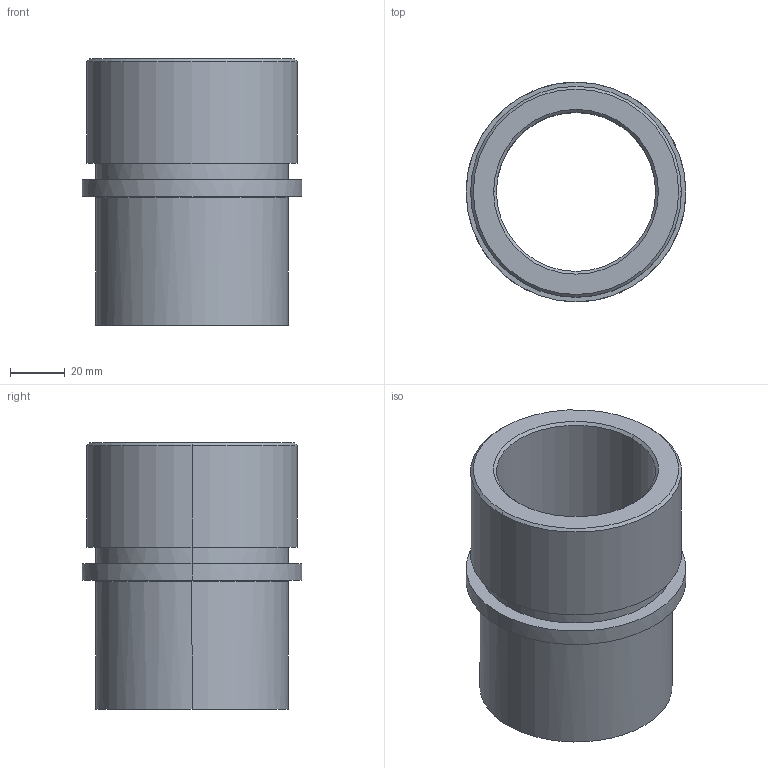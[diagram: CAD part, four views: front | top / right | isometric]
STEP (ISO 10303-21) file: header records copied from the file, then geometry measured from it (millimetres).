
FILE_DESCRIPTION(('CATIA V5 STEP Exchange'),'2;1');
FILE_NAME('C:\Users\Utente\Desktop\IO LAVORO\3D X SITO CF\X SITO\735\735-50.stp','2021-01-16T19:18:51+00:00',('none'),('none'),'CATIA Version 5 Release 20 GA (IN-10)','CATIA V5 STEP AP203','none');
FILE_SCHEMA(('CONFIG_CONTROL_DESIGN'));
Length unit declared in the file: millimetre
Products named in the file (1): 735-50
Assembly tree (1 placements, depth 2):
  735-50
    #58
Bounding box: 80 x 80 x 97 mm (x, y, z)
Volume: 153389.2 mm3; surface area: 46344.3 mm2
Topology: 1 solids, 1 shells, 25 faces, 50 edges, 30 vertices
Faces by surface type: cylinder 10, cone 6, plane 5, torus 4
Entity records: 851 total; most frequent: CARTESIAN_POINT 282, ORIENTED_EDGE 100, DIRECTION 96, AXIS2_PLACEMENT_3D 53, EDGE_CURVE 50, EDGE_LOOP 30, VERTEX_POINT 30, CIRCLE 26
